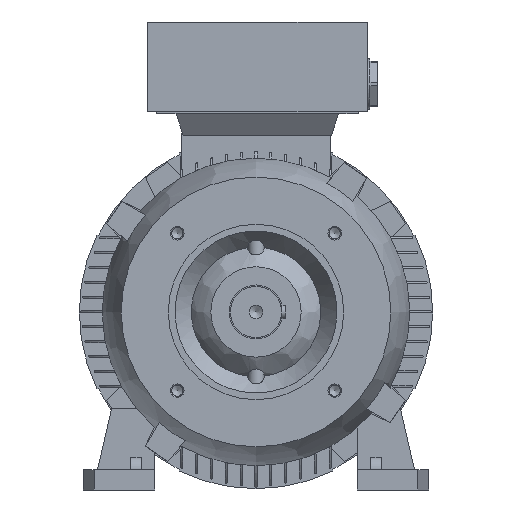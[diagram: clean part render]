
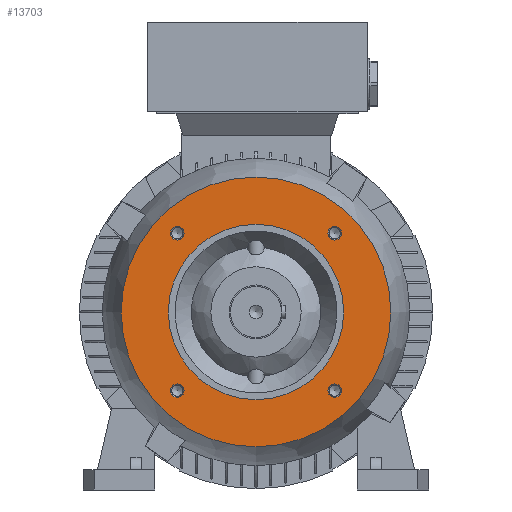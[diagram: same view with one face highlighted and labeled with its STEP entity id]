
A CAD part, left-side view. The second image highlights one B-rep face of the part: STEP entity #13703.
In plain terms, the highlighted planar face has unit normal (-1, 0, 0).
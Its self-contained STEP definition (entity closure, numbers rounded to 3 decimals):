
#783 = FACE_BOUND ( 'NONE', #6550, .T. ) ;
#1330 = DIRECTION ( 'NONE',  ( 0., 0., 1. ) ) ;
#1352 = CARTESIAN_POINT ( 'NONE',  ( -50.5, 58.336, -53.336 ) ) ;
#2119 = EDGE_CURVE ( 'NONE', #24030, #24030, #10701, .T. ) ;
#2123 = EDGE_CURVE ( 'NONE', #24004, #24004, #10544, .T. ) ;
#2129 = EDGE_CURVE ( 'NONE', #23966, #23966, #10620, .T. ) ;
#2163 = EDGE_CURVE ( 'NONE', #23947, #23947, #10425, .T. ) ;
#2167 = EDGE_CURVE ( 'NONE', #23797, #23797, #10488, .T. ) ;
#2797 = ORIENTED_EDGE ( 'NONE', *, *, #8025, .F. ) ;
#3261 = CARTESIAN_POINT ( 'NONE',  ( -50.5, -58.336, 63.336 ) ) ;
#3330 = AXIS2_PLACEMENT_3D ( 'NONE', #11203, #24944, #13110 ) ;
#3354 = FACE_BOUND ( 'NONE', #13447, .T. ) ;
#3740 = EDGE_LOOP ( 'NONE', ( #10301 ) ) ;
#4267 = CARTESIAN_POINT ( 'NONE',  ( -50.5, -58.336, -58.336 ) ) ;
#6550 = EDGE_LOOP ( 'NONE', ( #8051 ) ) ;
#6732 = AXIS2_PLACEMENT_3D ( 'NONE', #19243, #19190, #19163 ) ;
#7616 = AXIS2_PLACEMENT_3D ( 'NONE', #4267, #20104, #19393 ) ;
#8025 = EDGE_CURVE ( 'NONE', #23421, #23421, #12764, .T. ) ;
#8051 = ORIENTED_EDGE ( 'NONE', *, *, #2163, .T. ) ;
#8853 = EDGE_LOOP ( 'NONE', ( #14035 ) ) ;
#10301 = ORIENTED_EDGE ( 'NONE', *, *, #2129, .T. ) ;
#10425 = CIRCLE ( 'NONE', #17948, 5. ) ;
#10488 = CIRCLE ( 'NONE', #18065, 65. ) ;
#10544 = CIRCLE ( 'NONE', #6732, 5. ) ;
#10620 = CIRCLE ( 'NONE', #22660, 5. ) ;
#10701 = CIRCLE ( 'NONE', #7616, 5. ) ;
#10730 = PLANE ( 'NONE',  #23400 ) ;
#10851 = ORIENTED_EDGE ( 'NONE', *, *, #2123, .T. ) ;
#11203 = CARTESIAN_POINT ( 'NONE',  ( -50.5, 0., 0. ) ) ;
#12737 = DIRECTION ( 'NONE',  ( -1., 0., 0. ) ) ;
#12758 = CARTESIAN_POINT ( 'NONE',  ( -50.5, -58.336, -53.336 ) ) ;
#12764 = CIRCLE ( 'NONE', #3330, 100. ) ;
#13002 = EDGE_LOOP ( 'NONE', ( #2797 ) ) ;
#13110 = DIRECTION ( 'NONE',  ( 0., 0., -1. ) ) ;
#13447 = EDGE_LOOP ( 'NONE', ( #25038 ) ) ;
#13703 = ADVANCED_FACE ( 'NONE', ( #3354, #15373, #783, #18059, #15467, #25125 ), #10730, .T. ) ;
#14035 = ORIENTED_EDGE ( 'NONE', *, *, #2119, .T. ) ;
#14749 = CARTESIAN_POINT ( 'NONE',  ( -50.5, 58.336, 63.336 ) ) ;
#15373 = FACE_OUTER_BOUND ( 'NONE', #13002, .T. ) ;
#15467 = FACE_BOUND ( 'NONE', #16651, .T. ) ;
#16651 = EDGE_LOOP ( 'NONE', ( #10851 ) ) ;
#16735 = CARTESIAN_POINT ( 'NONE',  ( -50.5, 0., 65. ) ) ;
#17948 = AXIS2_PLACEMENT_3D ( 'NONE', #20001, #20733, #21457 ) ;
#18059 = FACE_BOUND ( 'NONE', #3740, .T. ) ;
#18065 = AXIS2_PLACEMENT_3D ( 'NONE', #18108, #21772, #23821 ) ;
#18108 = CARTESIAN_POINT ( 'NONE',  ( -50.5, 0., 0. ) ) ;
#18810 = DIRECTION ( 'NONE',  ( 0., 0., 1. ) ) ;
#18904 = CARTESIAN_POINT ( 'NONE',  ( -50.5, 58.336, 58.336 ) ) ;
#18929 = DIRECTION ( 'NONE',  ( 1., 0., 0. ) ) ;
#19163 = DIRECTION ( 'NONE',  ( 0., 0., 1. ) ) ;
#19190 = DIRECTION ( 'NONE',  ( 1., 0., 0. ) ) ;
#19243 = CARTESIAN_POINT ( 'NONE',  ( -50.5, 58.336, -58.336 ) ) ;
#19393 = DIRECTION ( 'NONE',  ( 0., 0., 1. ) ) ;
#20001 = CARTESIAN_POINT ( 'NONE',  ( -50.5, -58.336, 58.336 ) ) ;
#20104 = DIRECTION ( 'NONE',  ( 1., 0., 0. ) ) ;
#20646 = CARTESIAN_POINT ( 'NONE',  ( -50.5, 0., 82.5 ) ) ;
#20733 = DIRECTION ( 'NONE',  ( 1., 0., 0. ) ) ;
#20756 = CARTESIAN_POINT ( 'NONE',  ( -50.5, 0., -100. ) ) ;
#21457 = DIRECTION ( 'NONE',  ( 0., 0., 1. ) ) ;
#21772 = DIRECTION ( 'NONE',  ( 1., 0., 0. ) ) ;
#22660 = AXIS2_PLACEMENT_3D ( 'NONE', #18904, #18929, #18810 ) ;
#23400 = AXIS2_PLACEMENT_3D ( 'NONE', #20646, #12737, #1330 ) ;
#23421 = VERTEX_POINT ( 'NONE', #20756 ) ;
#23797 = VERTEX_POINT ( 'NONE', #16735 ) ;
#23821 = DIRECTION ( 'NONE',  ( 0., 0., 1. ) ) ;
#23947 = VERTEX_POINT ( 'NONE', #3261 ) ;
#23966 = VERTEX_POINT ( 'NONE', #14749 ) ;
#24004 = VERTEX_POINT ( 'NONE', #1352 ) ;
#24030 = VERTEX_POINT ( 'NONE', #12758 ) ;
#24944 = DIRECTION ( 'NONE',  ( 1., 0., 0. ) ) ;
#25038 = ORIENTED_EDGE ( 'NONE', *, *, #2167, .T. ) ;
#25125 = FACE_BOUND ( 'NONE', #8853, .T. ) ;
